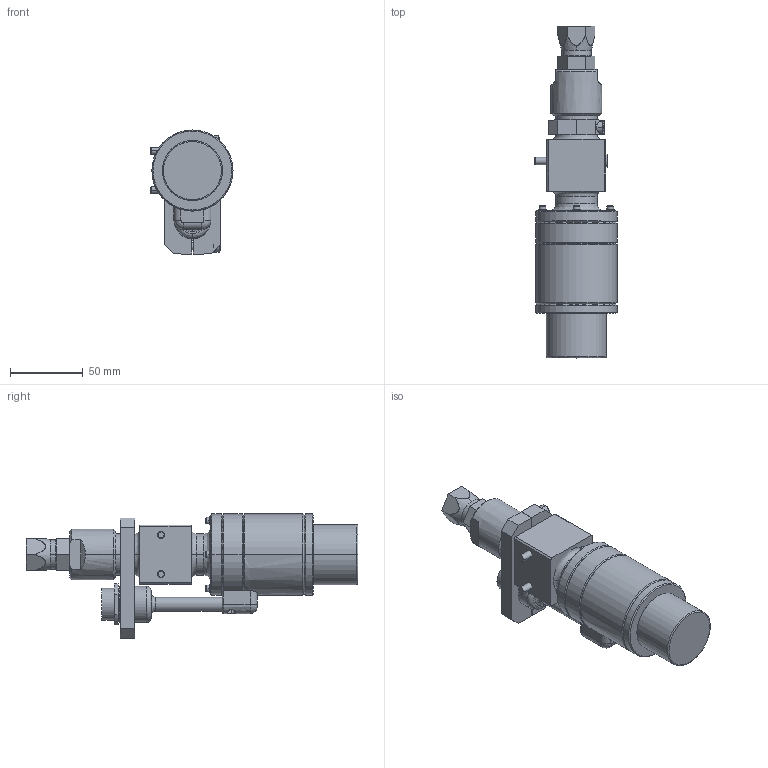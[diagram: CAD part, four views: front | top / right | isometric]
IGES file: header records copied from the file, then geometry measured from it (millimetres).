
Start section:  PTC IGES file: 243402-en-l.igs
Global section: file name: 243402-en-l.igs; native system: Creo Parametric by PTC Inc.; preprocessor: 2019030; author: qusrh3; organization: Unknown; date: 20191231.162023; units: inch
Bounding box: 56.46 x 228.55 x 85.44 mm (x, y, z)
Surface area: 62423.9 mm2 (no closed solid volume)
Topology: 0 solids, 0 shells, 219 faces, 934 edges, 934 vertices
Faces by surface type: revolution 135, bspline 84
